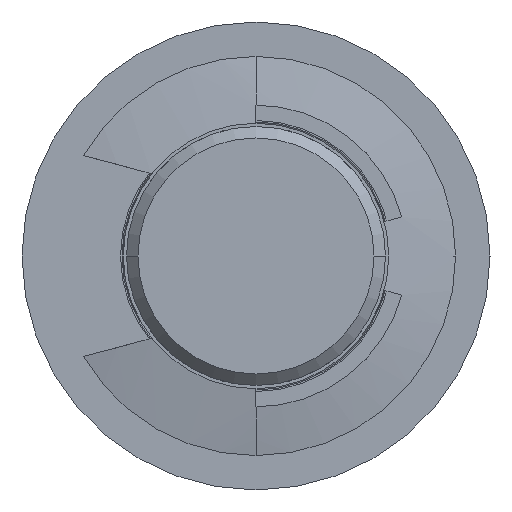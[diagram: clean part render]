
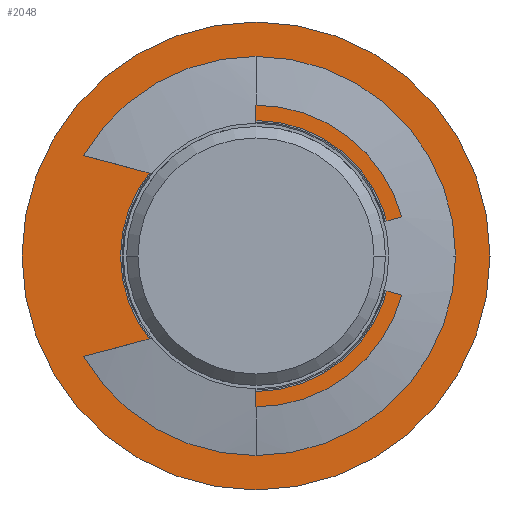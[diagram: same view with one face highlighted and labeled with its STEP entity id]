
A CAD part, left-side view. The second image highlights one B-rep face of the part: STEP entity #2048.
In plain terms, the highlighted planar face has unit normal (-1, 0, 0).
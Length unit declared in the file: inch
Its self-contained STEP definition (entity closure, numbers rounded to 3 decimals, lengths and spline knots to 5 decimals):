
#1906=CARTESIAN_POINT('',(-5.59406,-0.551,0.));
#1907=VERTEX_POINT('',#1906);
#1916=CARTESIAN_POINT('',(-5.59406,0.551,0.));
#1917=VERTEX_POINT('',#1916);
#1918=CARTESIAN_POINT('',(-5.59406,0.,0.));
#1919=DIRECTION('',(1.0,0.0,0.0));
#1920=DIRECTION('',(0.0,-1.0,0.0));
#1921=AXIS2_PLACEMENT_3D('',#1918,#1919,#1920);
#1922=CIRCLE('',#1921,0.551);
#1923=EDGE_CURVE('',#1907,#1917,#1922,.T.);
#1948=CARTESIAN_POINT('',(-5.59406,-0.319,0.));
#1949=VERTEX_POINT('',#1948);
#1958=CARTESIAN_POINT('',(-5.59406,0.319,0.));
#1959=VERTEX_POINT('',#1958);
#1960=CARTESIAN_POINT('',(-5.59406,0.,0.));
#1961=DIRECTION('',(1.0,0.0,0.0));
#1962=DIRECTION('',(0.0,-1.0,0.0));
#1963=AXIS2_PLACEMENT_3D('',#1960,#1961,#1962);
#1964=CIRCLE('',#1963,0.319);
#1965=EDGE_CURVE('',#1959,#1949,#1964,.T.);
#2019=CARTESIAN_POINT('',(-5.59406,0.,0.));
#2020=DIRECTION('',(1.0,0.0,0.0));
#2021=DIRECTION('',(0.0,-1.0,0.0));
#2022=AXIS2_PLACEMENT_3D('',#2019,#2020,#2021);
#2023=CIRCLE('',#2022,0.319);
#2024=EDGE_CURVE('',#1949,#1959,#2023,.T.);
#2029=CARTESIAN_POINT('',(-5.59406,-0.435,0.));
#2030=DIRECTION('',(-1.0,0.0,0.0));
#2031=DIRECTION('',(0.0,0.0,-1.0));
#2032=AXIS2_PLACEMENT_3D('',#2029,#2030,#2031);
#2033=PLANE('',#2032);
#2034=ORIENTED_EDGE('',*,*,#1923,.F.);
#2035=CARTESIAN_POINT('',(-5.59406,0.,0.));
#2036=DIRECTION('',(1.0,0.0,0.0));
#2037=DIRECTION('',(0.0,-1.0,0.0));
#2038=AXIS2_PLACEMENT_3D('',#2035,#2036,#2037);
#2039=CIRCLE('',#2038,0.551);
#2040=EDGE_CURVE('',#1917,#1907,#2039,.T.);
#2041=ORIENTED_EDGE('',*,*,#2040,.F.);
#2042=EDGE_LOOP('',(#2034,#2041));
#2043=FACE_OUTER_BOUND('',#2042,.T.);
#2044=ORIENTED_EDGE('',*,*,#2024,.T.);
#2045=ORIENTED_EDGE('',*,*,#1965,.T.);
#2046=EDGE_LOOP('',(#2044,#2045));
#2047=FACE_BOUND('',#2046,.T.);
#2048=ADVANCED_FACE('',(#2043,#2047),#2033,.T.);
